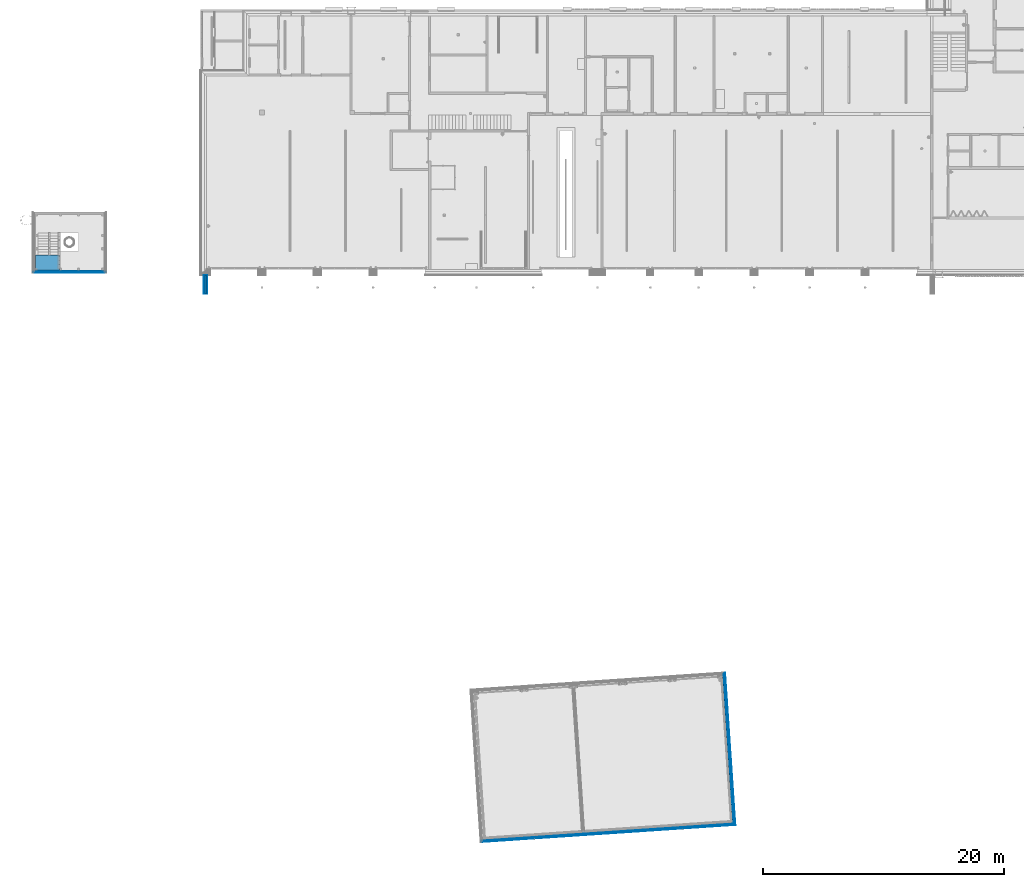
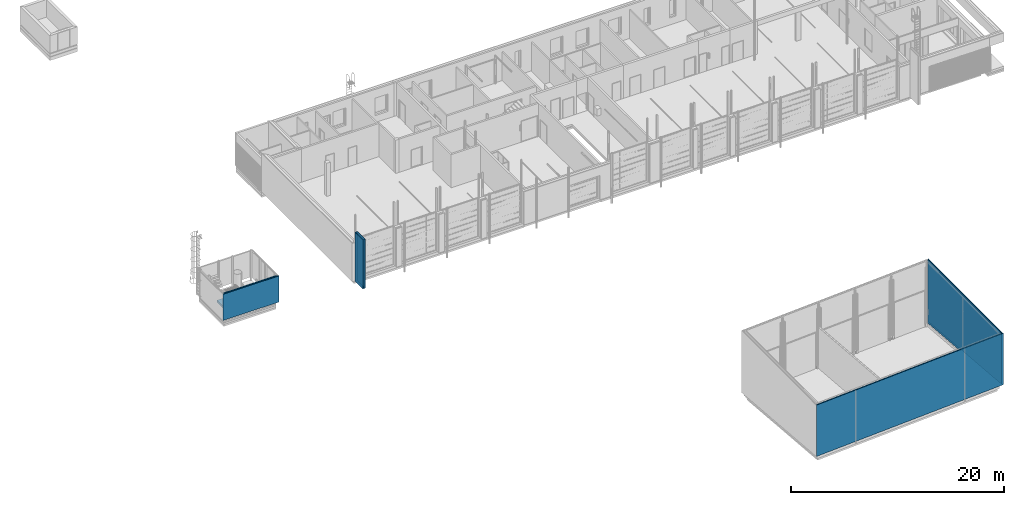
# One storey, part 20 of 112: 20 building element parts, 5 elements without a shape of their own.
"""IFC2X3 building model written with IfcOpenShell, lengths in millimetres."""

from ifc_helpers import new_model, entity, si_unit, converted_unit, derived_unit, money_unit, direction, frame, origin_with_axes, place, context, subcontext, project, spatial, polyline, outline, extrude, clip, halfspace, material, type_object, element, aggregate, save


model = new_model("IFC2X3")

# Units and contexts
model_context = context("Model", 3, precision=0.01, world=origin_with_axes(), true_north=direction((0.0, 1.0)))
body_context = subcontext(model_context, "Body", "Model", "MODEL_VIEW")
ifc_project = project(units=[si_unit("LENGTHUNIT", "METRE", prefix="MILLI"), si_unit("AREAUNIT", "SQUARE_METRE"), si_unit("VOLUMEUNIT", "CUBIC_METRE"), converted_unit("PLANEANGLEUNIT", "DEGREE", entity("IfcPlaneAngleMeasure", 0.0174532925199), si_unit("PLANEANGLEUNIT", "RADIAN"), dimensions=[0, 0, 0, 0, 0, 0, 0]), si_unit("SOLIDANGLEUNIT", "STERADIAN"), money_unit("EUR"), converted_unit("TIMEUNIT", "Year", entity("IfcTimeMeasure", 31556926.0), si_unit("TIMEUNIT", "SECOND"), dimensions=[0, 0, 1, 0, 0, 0, 0]), si_unit("MASSUNIT", "GRAM", prefix="KILO"), si_unit("THERMODYNAMICTEMPERATUREUNIT", "DEGREE_CELSIUS"), si_unit("LUMINOUSINTENSITYUNIT", "LUMEN"), si_unit("ENERGYUNIT", "JOULE", prefix="MEGA"), derived_unit("THERMALCONDUCTANCEUNIT", [(si_unit("POWERUNIT", "WATT"), 1), (si_unit("LENGTHUNIT", "METRE"), -1), (si_unit("THERMODYNAMICTEMPERATUREUNIT", "KELVIN"), -1)]), derived_unit("SPECIFICHEATCAPACITYUNIT", [(si_unit("ENERGYUNIT", "JOULE"), 1), (si_unit("MASSUNIT", "GRAM", prefix="KILO"), -1), (si_unit("THERMODYNAMICTEMPERATUREUNIT", "KELVIN"), -1)]), derived_unit("MASSDENSITYUNIT", [(si_unit("MASSUNIT", "GRAM", prefix="KILO"), 1), (si_unit("VOLUMEUNIT", "CUBIC_METRE"), -1)])], contexts=[model_context])

# Site, building, storey
site_placement = place(None, origin_with_axes())
site = spatial("IfcSite", under=ifc_project, at=site_placement, Name="Politse- ja Piirivalveameti ning Päästeameti ühishoone", CompositionType="ELEMENT")
building_placement = place(site_placement, origin_with_axes())
building = spatial("IfcBuilding", under=site, at=building_placement, Name="Politse- ja Piirivalveameti ning Päästeameti ühishoone", CompositionType="ELEMENT")
storey_placement = place(building_placement, origin_with_axes())
storey = spatial("IfcBuildingStorey", under=building, at=storey_placement, Name="Esimene korrus", CompositionType="ELEMENT", Elevation=0.0)

# Wall, building element parts
wall_type_1 = type_object("IfcWallType", Name="VS-06_välissein varikatuse külg 290", PredefinedType="NOTDEFINED")
wall_1_placement = place(storey_placement, frame((70.0, -510.025333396, 0.0), z_axis=(0.0, 0.0, 1.0), x_axis=(0.0, -1.0, 0.0)))
wall_1 = element("IfcWall", 1, at=wall_1_placement, inside=storey, type_object=wall_type_1, Name="VS-06")
ifc_material_1 = material(Name="ET-06_Teras - Konstruktsioon")
building_element_part_1_placement = place(wall_1_placement, origin_with_axes())
building_element_part_1 = element("IfcBuildingElementPart", 2, at=building_element_part_1_placement, material=ifc_material_1, Name="ET-06_Teras - Konstruktsioon", context=body_context, shape_type="SweptSolid", body=[
    extrude(outline(polyline([(0.0, -290.0), (1499.84817908, -290.0), (1499.84817908, -250.0), (0.0, -250.0), (0.0, -290.0)])), origin_with_axes(), (0.0, 0.0, 1.0), 5610.0),
])
ifc_material_2 = material(Name="Õhkvahe")
building_element_part_2_placement = place(wall_1_placement, origin_with_axes())
building_element_part_2 = element("IfcBuildingElementPart", 3, at=building_element_part_2_placement, material=ifc_material_2, Name="Õhkvahe", context=body_context, shape_type="SweptSolid", body=[
    extrude(outline(polyline([(0.0, -250.0), (1499.84817908, -250.0), (1499.84817908, -220.0), (0.0, -220.0), (0.0, -250.0)])), origin_with_axes(), (0.0, 0.0, 1.0), 5610.0),
])
ifc_material_3 = material(Name="Õhkvahe - Raam")
building_element_part_3_placement = place(wall_1_placement, origin_with_axes())
building_element_part_3 = element("IfcBuildingElementPart", 4, at=building_element_part_3_placement, material=ifc_material_3, Name="Õhkvahe - Raam", context=body_context, shape_type="SweptSolid", body=[
    extrude(outline(polyline([(0.0, -220.0), (1499.84817908, -220.0), (1499.84817908, -70.0), (0.0, -70.0), (0.0, -220.0)])), origin_with_axes(), (0.0, 0.0, 1.0), 5610.0),
])
building_element_part_4_placement = place(wall_1_placement, origin_with_axes())
building_element_part_4 = element("IfcBuildingElementPart", 5, at=building_element_part_4_placement, material=ifc_material_2, Name="Õhkvahe", context=body_context, shape_type="SweptSolid", body=[
    extrude(outline(polyline([(0.0, -70.0), (1499.84817908, -70.0), (1499.84817908, -40.0), (0.0, -40.0), (0.0, -70.0)])), origin_with_axes(), (0.0, 0.0, 1.0), 5610.0),
])
building_element_part_5_placement = place(wall_1_placement, origin_with_axes())
building_element_part_5 = element("IfcBuildingElementPart", 6, at=building_element_part_5_placement, material=ifc_material_1, Name="ET-06_Teras - Konstruktsioon", context=body_context, shape_type="SweptSolid", body=[
    extrude(outline(polyline([(0.0, -40.0), (1499.84817908, -40.0), (1499.84817908, 0.0), (0.0, 0.0), (0.0, -40.0)])), origin_with_axes(), (0.0, 0.0, 1.0), 5610.0),
])
aggregate(wall_1, [building_element_part_1, building_element_part_2, building_element_part_3, building_element_part_4, building_element_part_5])

wall_type_2 = type_object("IfcWallType", Name="VS-20_Välissein jarjutustorn 225", PredefinedType="NOTDEFINED")
wall_2_placement = place(storey_placement, frame((-14182.0, -75.0, 299.570732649), z_axis=(0.0, 0.0, 1.0), x_axis=(1.0, 0.0, 0.0)))
wall_2 = element("IfcWall", 7, at=wall_2_placement, inside=storey, type_object=wall_type_2, Name="Välissein")
building_element_part_6_placement = place(wall_2_placement, origin_with_axes())
building_element_part_6 = element("IfcBuildingElementPart", 8, at=building_element_part_6_placement, material=ifc_material_3, Name="Õhkvahe - Raam", context=body_context, shape_type="SweptSolid", body=[
    extrude(outline(polyline([(-100.0, -100.0), (5750.0, -100.0), (5650.0, 0.0), (0.0, 0.0), (-100.0, -100.0)])), origin_with_axes(), (0.0, 0.0, 1.0), 3000.42924813),
])
ifc_material_4 = material(Name="SKR-05_Vineer")
building_element_part_7_placement = place(wall_2_placement, origin_with_axes())
building_element_part_7 = element("IfcBuildingElementPart", 9, at=building_element_part_7_placement, material=ifc_material_4, Name="SKR-05_Vineer", context=body_context, shape_type="SweptSolid", body=[
    extrude(outline(polyline([(-115.0, -115.0), (5765.0, -115.0), (5750.0, -100.0), (-100.0, -100.0), (-115.0, -115.0)])), origin_with_axes(), (0.0, 0.0, 1.0), 3000.42924813),
])
ifc_material_5 = material(Name="SKR-01_Õhkvahe - Raam")
building_element_part_8_placement = place(wall_2_placement, origin_with_axes())
building_element_part_8 = element("IfcBuildingElementPart", 10, at=building_element_part_8_placement, material=ifc_material_5, Name="SKR-01_Õhkvahe - Raam", context=body_context, shape_type="SweptSolid", body=[
    extrude(outline(polyline([(-130.0, -130.0), (5780.0, -130.0), (5765.0, -115.0), (-115.0, -115.0), (-130.0, -130.0)])), origin_with_axes(), (0.0, 0.0, 1.0), 3000.42924813),
])
building_element_part_9_placement = place(wall_2_placement, origin_with_axes())
building_element_part_9 = element("IfcBuildingElementPart", 11, at=building_element_part_9_placement, material=ifc_material_5, Name="SKR-01_Õhkvahe - Raam", context=body_context, shape_type="SweptSolid", body=[
    extrude(outline(polyline([(-180.0, -180.0), (5830.0, -180.0), (5780.0, -130.0), (-130.0, -130.0), (-180.0, -180.0)])), origin_with_axes(), (0.0, 0.0, 1.0), 3000.42924813),
])
ifc_material_6 = material(Name="SKR-04_Puitplaat")
building_element_part_10_placement = place(wall_2_placement, origin_with_axes())
building_element_part_10 = element("IfcBuildingElementPart", 12, at=building_element_part_10_placement, material=ifc_material_6, Name="SKR-04_Puitplaat", context=body_context, shape_type="SweptSolid", body=[
    extrude(outline(polyline([(-225.0, -225.0), (5875.0, -225.0), (5830.0, -180.0), (-180.0, -180.0), (-225.0, -225.0)])), origin_with_axes(), (0.0, 0.0, 1.0), 3000.42924813),
])
aggregate(wall_2, [building_element_part_6, building_element_part_7, building_element_part_8, building_element_part_9, building_element_part_10])

# Slab, building element parts
slab_type = type_object("IfcSlabType", Name="VL-22_Vahelagi harjutustorn trepimade 230", PredefinedType="NOTDEFINED")
slab_placement = place(storey_placement, frame((-14182.0653854, -75.0, 1650.0), z_axis=(0.0, 0.0, 1.0), x_axis=(1.0, 0.0, 0.0)))
slab = element("IfcSlab", 13, at=slab_placement, inside=storey, type_object=slab_type, Name="VAHELAGI", PredefinedType="NOTDEFINED")
building_element_part_11_placement = place(slab_placement, origin_with_axes())
building_element_part_11 = element("IfcBuildingElementPart", 14, at=building_element_part_11_placement, material=ifc_material_5, Name="SKR-01_Õhkvahe - Raam", context=body_context, shape_type="SweptSolid", body=[
    extrude(outline(polyline([(0.0, 0.0), (2000.03268974, 0.0), (1999.73714907, 1269.99609654), (0.0, 1269.99609654), (0.0, 0.0)])), frame((0.0, 0.0, -230.0), z_axis=(0.0, 0.0, 1.0), x_axis=(1.0, 0.0, 0.0)), (0.0, 0.0, 1.0), 200.0),
])
ifc_material_7 = material(Name="ET-05_Teras")
building_element_part_12_placement = place(slab_placement, origin_with_axes())
building_element_part_12 = element("IfcBuildingElementPart", 15, at=building_element_part_12_placement, material=ifc_material_7, Name="ET-05_Teras", context=body_context, shape_type="SweptSolid", body=[
    extrude(outline(polyline([(0.0, 0.0), (2000.03268974, 0.0), (1999.73714907, 1269.99609654), (0.0, 1269.99609654), (0.0, 0.0)])), frame((0.0, 0.0, -30.0), z_axis=(0.0, 0.0, 1.0), x_axis=(1.0, 0.0, 0.0)), (0.0, 0.0, 1.0), 30.0),
])
aggregate(slab, [building_element_part_11, building_element_part_12])

# Wall, building element parts
wall_type_3 = type_object("IfcWallType", Name="VS-31_Välissein Pääste garaaz 275", PredefinedType="NOTDEFINED")
wall_3_placement = place(storey_placement, frame((43523.9937344, -45776.6578758, 300.0), z_axis=(0.0, 0.0, 1.0), x_axis=(-0.997742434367, -0.0671567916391, 0.0)))
wall_3 = element("IfcWall", 16, at=wall_3_placement, inside=storey, type_object=wall_type_3, Name="VS-31")
building_element_part_13_placement = place(wall_3_placement, origin_with_axes())
building_element_part_13 = element("IfcBuildingElementPart", 17, at=building_element_part_13_placement, material=ifc_material_2, Name="Õhkvahe", context=body_context, shape_type="SweptSolid", body=[
    extrude(outline(polyline([(-165.0, 165.0), (20754.9999763, 165.0), (20769.9999763, 180.0), (-180.0, 180.0), (-165.0, 165.0)])), origin_with_axes(), (0.0, 0.0, 1.0), 5897.12147372),
])
building_element_part_14_placement = place(wall_3_placement, origin_with_axes())
building_element_part_14 = element("IfcBuildingElementPart", 18, at=building_element_part_14_placement, material=ifc_material_2, Name="Õhkvahe", context=body_context, shape_type="SweptSolid", body=[
    extrude(outline(polyline([(-180.0, 180.0), (20769.9999763, 180.0), (20819.9999763, 230.0), (-230.0, 230.0), (-180.0, 180.0)])), origin_with_axes(), (0.0, 0.0, 1.0), 5897.12147372),
])
ifc_material_8 = material(Name="GENEERILINE - VÄLINE VOODER")
building_element_part_15_placement = place(wall_3_placement, origin_with_axes())
building_element_part_15 = element("IfcBuildingElementPart", 19, at=building_element_part_15_placement, material=ifc_material_8, Name="GENEERILINE - VÄLINE VOODER", context=body_context, shape_type="SweptSolid", body=[
    extrude(outline(polyline([(-230.0, 230.0), (20819.9999763, 230.0), (20864.9999763, 275.0), (-275.0, 275.0), (-230.0, 230.0)])), origin_with_axes(), (0.0, 0.0, 1.0), 5897.12147372),
])
aggregate(wall_3, [building_element_part_13, building_element_part_14, building_element_part_15])

wall_4_placement = place(storey_placement, frame((42711.7323396, -33708.9631321, 300.0), z_axis=(0.0, 0.0, 1.0), x_axis=(0.0671567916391, -0.997742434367, 0.0)))
wall_4 = element("IfcWall", 20, at=wall_4_placement, inside=storey, type_object=wall_type_3, Name="Välissein")
building_element_part_16_placement = place(wall_4_placement, origin_with_axes())
building_element_part_16 = element("IfcBuildingElementPart", 21, at=building_element_part_16_placement, material=ifc_material_2, Name="Õhkvahe", context=body_context, shape_type="Clipping", body=[
    clip(extrude(outline(polyline([(1.27897692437e-10, 0.0), (12095.0, 0.0), (12245.0, 150.0), (-150.0, 150.0), (1.27897692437e-10, 0.0)])), origin_with_axes(), (0.0, 0.0, 1.0), 11416.6793073), halfspace(frame((702.013061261, 0.0, 7033.26386339), z_axis=(-0.0993197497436, 0.0, -0.995055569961), x_axis=(0.0, 1.0, 0.0)), True)),
])
ifc_material_9 = material(Name="Vineer")
building_element_part_17_placement = place(wall_4_placement, origin_with_axes())
building_element_part_17 = element("IfcBuildingElementPart", 22, at=building_element_part_17_placement, material=ifc_material_9, Name="Vineer", context=body_context, shape_type="Clipping", body=[
    clip(extrude(outline(polyline([(-150.0, 150.0), (12245.0, 150.0), (12260.0, 165.0), (-165.0, 165.0), (-150.0, 150.0)])), origin_with_axes(), (0.0, 0.0, 1.0), 11416.6793073), halfspace(frame((702.013061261, 0.0, 7033.26386339), z_axis=(-0.0993197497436, 0.0, -0.995055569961), x_axis=(0.0, 1.0, 0.0)), True)),
])
building_element_part_18_placement = place(wall_4_placement, origin_with_axes())
building_element_part_18 = element("IfcBuildingElementPart", 23, at=building_element_part_18_placement, material=ifc_material_2, Name="Õhkvahe", context=body_context, shape_type="Clipping", body=[
    clip(extrude(outline(polyline([(-165.0, 165.0), (12260.0, 165.0), (12275.0, 180.0), (-180.0, 180.0), (-165.0, 165.0)])), origin_with_axes(), (0.0, 0.0, 1.0), 11416.6793073), halfspace(frame((702.013061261, 0.0, 7033.26386339), z_axis=(-0.0993197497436, 0.0, -0.995055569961), x_axis=(0.0, 1.0, 0.0)), True)),
])
building_element_part_19_placement = place(wall_4_placement, origin_with_axes())
building_element_part_19 = element("IfcBuildingElementPart", 24, at=building_element_part_19_placement, material=ifc_material_2, Name="Õhkvahe", context=body_context, shape_type="Clipping", body=[
    clip(extrude(outline(polyline([(-180.0, 180.0), (12275.0, 180.0), (12325.0, 230.0), (-230.0, 230.0), (-180.0, 180.0)])), origin_with_axes(), (0.0, 0.0, 1.0), 11416.6793073), halfspace(frame((702.013061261, 0.0, 7033.26386339), z_axis=(-0.0993197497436, 0.0, -0.995055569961), x_axis=(0.0, 1.0, 0.0)), True)),
])
building_element_part_20_placement = place(wall_4_placement, origin_with_axes())
building_element_part_20 = element("IfcBuildingElementPart", 25, at=building_element_part_20_placement, material=ifc_material_8, Name="GENEERILINE - VÄLINE VOODER", context=body_context, shape_type="Clipping", body=[
    clip(extrude(outline(polyline([(-230.0, 230.0), (12325.0, 230.0), (12370.0, 275.0), (-275.0, 275.0), (-230.0, 230.0)])), origin_with_axes(), (0.0, 0.0, 1.0), 11416.6793073), halfspace(frame((702.013061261, 0.0, 7033.26386339), z_axis=(-0.0993197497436, 0.0, -0.995055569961), x_axis=(0.0, 1.0, 0.0)), True)),
])
aggregate(wall_4, [building_element_part_16, building_element_part_17, building_element_part_18, building_element_part_19, building_element_part_20])

save(model, "model.ifc")
